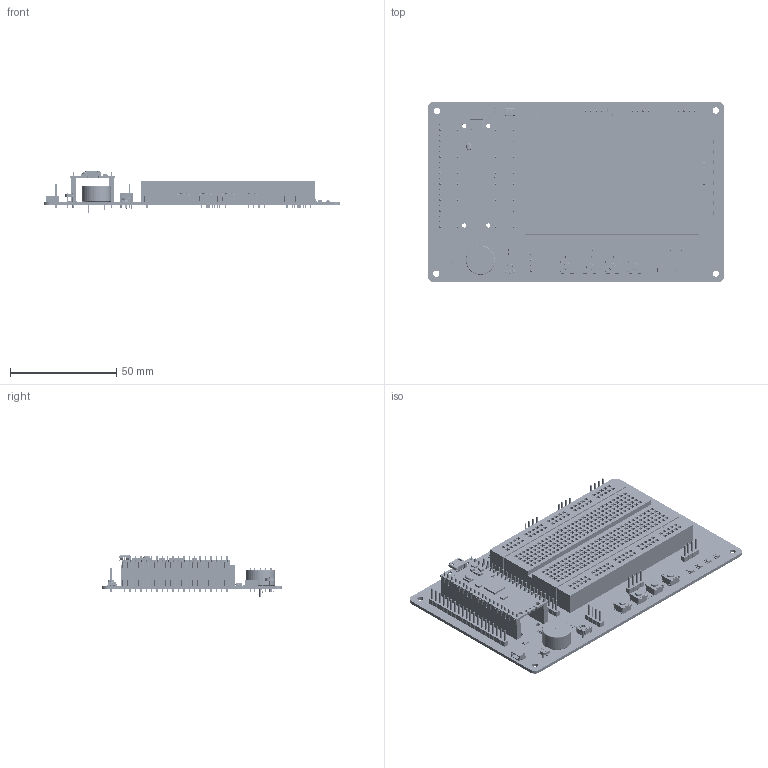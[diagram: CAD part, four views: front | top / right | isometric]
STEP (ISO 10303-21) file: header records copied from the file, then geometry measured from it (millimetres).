
FILE_DESCRIPTION(('KiCad electronic assembly'),'2;1');
FILE_NAME('KAmodRPi Pico Prototyping Platform.step', '2026-02-06T19:53:39',('Pcbnew'),('Kicad'), 'Open CASCADE STEP processor 7.9','KiCad to STEP converter','Unknown' );
FILE_SCHEMA(('AUTOMOTIVE_DESIGN { 1 0 10303 214 1 1 1 1 }'));
Length unit declared in the file: millimetre
Products named in the file (22): KAmodRPi Pico Prototyping Platform 1; C_0603_1608Metric; LED_1206_3216Metric; Fuse_1206_3216Metric; R_0603_1608Metric; LED_RGB_1210; SOT-23; PinHeader_1x04_P2.54mm_Vertical; R_LDR_4.9x4.2mm_P2.54mm_Vertical; RPI_pico; PinSocket_1x20_P2.54mm_Vertical; PinHeader_1x20_P2.54mm_Vertical; SW_SPST_B3S-1000; User Library-PROTOBOARD; SPARKFUN_QWIIC_RIGHT_ANGLE; Indicator_PUI_AI-1440-TWT-24V-2-R; User Library-RES_PT6-3; SW_SPST_EVQP2_ShortPushTravel_H2.1mm; KAmodRPi Pico Prototyping Platform_pad; KAmodRPi Pico Prototyping Platform_silkscreen; KAmodRPi Pico Prototyping Platform_soldermask; KAmodRPi Pico Prototyping Platform_PCB
Assembly tree (73 placements, depth 2):
  KAmodRPi Pico Prototyping Platform 1
    C_0603_1608Metric  x9
    LED_1206_3216Metric  x7
    Fuse_1206_3216Metric  x3
    R_0603_1608Metric  x18
    LED_RGB_1210  x8
    SOT-23
    PinHeader_1x04_P2.54mm_Vertical  x6
    R_LDR_4.9x4.2mm_P2.54mm_Vertical
    RPI_pico
    PinSocket_1x20_P2.54mm_Vertical  x2
    PinHeader_1x20_P2.54mm_Vertical  x4
    SW_SPST_B3S-1000  x4
    User Library-PROTOBOARD
    SPARKFUN_QWIIC_RIGHT_ANGLE
    Indicator_PUI_AI-1440-TWT-24V-2-R
    User Library-RES_PT6-3
    SW_SPST_EVQP2_ShortPushTravel_H2.1mm
    KAmodRPi Pico Prototyping Platform_pad
    KAmodRPi Pico Prototyping Platform_silkscreen
    KAmodRPi Pico Prototyping Platform_soldermask
    KAmodRPi Pico Prototyping Platform_PCB
Bounding box: 140 x 85 x 20.2 mm (x, y, z)
Volume: 59406.7 mm3; surface area: 102035.3 mm2
Topology: 644 solids, 1101 shells, 15955 faces, 56245 edges, 42913 vertices
Faces by surface type: plane 11201, bspline 2391, cylinder 2313, cone 18, torus 16, sphere 12, revolution 4
Full cylindrical faces by diameter (mm): 0.5 x4, 0.7 x2, 0.75 x6, 0.8 x4, 0.85 x9, 0.9 x6, 0.95 x318, 1 x212, 1.4 x1, 1.6 x66, 1.62 x6, 1.7 x124, 2 x2, 2.1 x4, 2.95 x12, 3 x8, 3.3 x4, 3.6 x4, 6 x8, 13.8 x1
Entity records: 573179 total; most frequent: CARTESIAN_POINT 176705, ORIENTED_EDGE 70791, DIRECTION 67832, EDGE_CURVE 44607, VERTEX_POINT 35600, LINE 33752, VECTOR 33752, AXIS2_PLACEMENT_3D 17038
